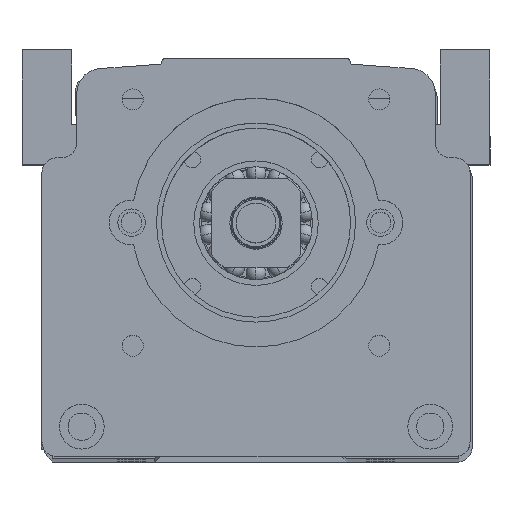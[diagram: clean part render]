
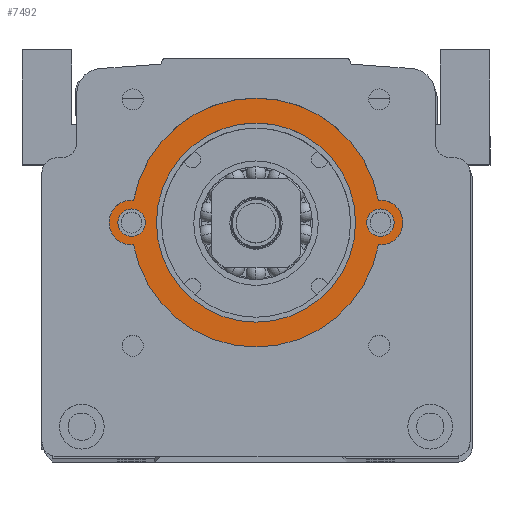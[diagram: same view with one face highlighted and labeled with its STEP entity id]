
A CAD part, top view. The second image highlights one B-rep face of the part: STEP entity #7492.
In plain terms, the highlighted planar face has unit normal (0, 0, 1).
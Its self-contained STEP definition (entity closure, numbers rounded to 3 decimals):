
#3 = DIRECTION ( 'NONE',  ( 0., 0., 1. ) ) ;
#203 = DIRECTION ( 'NONE',  ( 1., 0., 0. ) ) ;
#1160 = DIRECTION ( 'NONE',  ( 0., 0., 1. ) ) ;
#2434 = DIRECTION ( 'NONE',  ( 0., 0., 1. ) ) ;
#2799 = CIRCLE ( 'NONE', #30603, 2.75 ) ;
#3536 = ORIENTED_EDGE ( 'NONE', *, *, #41171, .T. ) ;
#3737 = CIRCLE ( 'NONE', #16670, 4.5 ) ;
#3751 = DIRECTION ( 'NONE',  ( 0., 0., 1. ) ) ;
#4396 = DIRECTION ( 'NONE',  ( 0., 0., 1. ) ) ;
#4462 = CIRCLE ( 'NONE', #30126, 2.75 ) ;
#6324 = EDGE_CURVE ( 'NONE', #62563, #33122, #23065, .T. ) ;
#7492 = ADVANCED_FACE ( 'NONE', ( #66680, #28645, #52928, #39141 ), #55344, .T. ) ;
#7897 = VERTEX_POINT ( 'NONE', #17078 ) ;
#8207 = EDGE_CURVE ( 'NONE', #57708, #53999, #21314, .T. ) ;
#9085 = CARTESIAN_POINT ( 'NONE',  ( 16.857, 5.327, 7. ) ) ;
#9929 = EDGE_CURVE ( 'NONE', #33122, #49575, #12275, .T. ) ;
#10309 = VERTEX_POINT ( 'NONE', #26274 ) ;
#11383 = CARTESIAN_POINT ( 'NONE',  ( -35.893, 5.327, 7. ) ) ;
#11472 = AXIS2_PLACEMENT_3D ( 'NONE', #50849, #19869, #56024 ) ;
#12275 = CIRCLE ( 'NONE', #23229, 4.5 ) ;
#13158 = CARTESIAN_POINT ( 'NONE',  ( -28.143, 5.327, 7. ) ) ;
#13891 = EDGE_CURVE ( 'NONE', #53999, #57708, #39996, .T. ) ;
#14318 = DIRECTION ( 'NONE',  ( 1., 0., 0. ) ) ;
#14582 = CARTESIAN_POINT ( 'NONE',  ( 21.357, 5.327, 7. ) ) ;
#15098 = ORIENTED_EDGE ( 'NONE', *, *, #33477, .F. ) ;
#15932 = CARTESIAN_POINT ( 'NONE',  ( -32.738, 9.808, 7. ) ) ;
#16400 = VERTEX_POINT ( 'NONE', #15932 ) ;
#16670 = AXIS2_PLACEMENT_3D ( 'NONE', #21232, #57382, #26447 ) ;
#17078 = CARTESIAN_POINT ( 'NONE',  ( 16.452, 9.808, 7. ) ) ;
#18217 = AXIS2_PLACEMENT_3D ( 'NONE', #35405, #4396, #40593 ) ;
#18651 = EDGE_CURVE ( 'NONE', #7897, #16400, #47034, .T. ) ;
#19869 = DIRECTION ( 'NONE',  ( 0., 0., 1. ) ) ;
#21232 = CARTESIAN_POINT ( 'NONE',  ( -33.143, 5.327, 7. ) ) ;
#21314 = CIRCLE ( 'NONE', #42236, 20. ) ;
#21501 = DIRECTION ( 'NONE',  ( 0., 0., 1. ) ) ;
#23043 = ORIENTED_EDGE ( 'NONE', *, *, #55933, .F. ) ;
#23065 = CIRCLE ( 'NONE', #33531, 25. ) ;
#23229 = AXIS2_PLACEMENT_3D ( 'NONE', #9085, #45306, #14318 ) ;
#25799 = CARTESIAN_POINT ( 'NONE',  ( -33.143, 5.327, 7. ) ) ;
#26274 = CARTESIAN_POINT ( 'NONE',  ( -30.393, 5.327, 7. ) ) ;
#26447 = DIRECTION ( 'NONE',  ( 1., 0., 0. ) ) ;
#26773 = ORIENTED_EDGE ( 'NONE', *, *, #13891, .F. ) ;
#28024 = CARTESIAN_POINT ( 'NONE',  ( -8.143, 5.327, 7. ) ) ;
#28645 = FACE_OUTER_BOUND ( 'NONE', #46311, .T. ) ;
#29099 = CIRCLE ( 'NONE', #66367, 2.75 ) ;
#29671 = AXIS2_PLACEMENT_3D ( 'NONE', #34765, #3751, #39949 ) ;
#29863 = ORIENTED_EDGE ( 'NONE', *, *, #31997, .T. ) ;
#30126 = AXIS2_PLACEMENT_3D ( 'NONE', #62228, #31249, #203 ) ;
#30297 = CARTESIAN_POINT ( 'NONE',  ( 19.607, 5.327, 7. ) ) ;
#30603 = AXIS2_PLACEMENT_3D ( 'NONE', #52494, #21501, #57625 ) ;
#30858 = CARTESIAN_POINT ( 'NONE',  ( 11.857, 5.327, 7. ) ) ;
#30969 = DIRECTION ( 'NONE',  ( 1., 0., 0. ) ) ;
#31015 = CARTESIAN_POINT ( 'NONE',  ( -8.143, 5.327, 7. ) ) ;
#31249 = DIRECTION ( 'NONE',  ( 0., 0., 1. ) ) ;
#31997 = EDGE_CURVE ( 'NONE', #16400, #62563, #3737, .T. ) ;
#32180 = CARTESIAN_POINT ( 'NONE',  ( 16.857, 5.327, 7. ) ) ;
#33122 = VERTEX_POINT ( 'NONE', #34021 ) ;
#33215 = DIRECTION ( 'NONE',  ( 1., 0., 0. ) ) ;
#33448 = CARTESIAN_POINT ( 'NONE',  ( -8.143, 5.327, 7. ) ) ;
#33477 = EDGE_CURVE ( 'NONE', #51895, #10309, #4462, .T. ) ;
#33531 = AXIS2_PLACEMENT_3D ( 'NONE', #28024, #64206, #33215 ) ;
#33973 = ORIENTED_EDGE ( 'NONE', *, *, #65539, .F. ) ;
#34021 = CARTESIAN_POINT ( 'NONE',  ( 16.452, 0.845, 7. ) ) ;
#34231 = CIRCLE ( 'NONE', #38647, 2.75 ) ;
#34704 = ORIENTED_EDGE ( 'NONE', *, *, #6324, .T. ) ;
#34765 = CARTESIAN_POINT ( 'NONE',  ( -33.143, 5.327, 7. ) ) ;
#35405 = CARTESIAN_POINT ( 'NONE',  ( -8.143, 5.327, 7. ) ) ;
#36218 = DIRECTION ( 'NONE',  ( 1., 0., 0. ) ) ;
#37352 = DIRECTION ( 'NONE',  ( 1., 0., 0. ) ) ;
#37797 = CARTESIAN_POINT ( 'NONE',  ( -32.738, 0.845, 7. ) ) ;
#38619 = DIRECTION ( 'NONE',  ( 1., 0., 0. ) ) ;
#38647 = AXIS2_PLACEMENT_3D ( 'NONE', #32180, #1160, #37352 ) ;
#38707 = EDGE_LOOP ( 'NONE', ( #52836, #26773 ) ) ;
#39141 = FACE_BOUND ( 'NONE', #38707, .T. ) ;
#39949 = DIRECTION ( 'NONE',  ( 1., 0., 0. ) ) ;
#39996 = CIRCLE ( 'NONE', #18217, 20. ) ;
#40593 = DIRECTION ( 'NONE',  ( 1., 0., 0. ) ) ;
#41171 = EDGE_CURVE ( 'NONE', #49575, #7897, #62281, .T. ) ;
#42236 = AXIS2_PLACEMENT_3D ( 'NONE', #33448, #2434, #38619 ) ;
#45306 = DIRECTION ( 'NONE',  ( 0., 0., 1. ) ) ;
#46311 = EDGE_LOOP ( 'NONE', ( #29863, #34704, #46647, #3536, #51938 ) ) ;
#46647 = ORIENTED_EDGE ( 'NONE', *, *, #9929, .T. ) ;
#47034 = CIRCLE ( 'NONE', #53900, 25. ) ;
#47353 = VERTEX_POINT ( 'NONE', #51644 ) ;
#49575 = VERTEX_POINT ( 'NONE', #14582 ) ;
#50577 = EDGE_CURVE ( 'NONE', #10309, #51895, #29099, .T. ) ;
#50849 = CARTESIAN_POINT ( 'NONE',  ( 16.857, 5.327, 7. ) ) ;
#51239 = EDGE_LOOP ( 'NONE', ( #15098, #62940 ) ) ;
#51644 = CARTESIAN_POINT ( 'NONE',  ( 14.107, 5.327, 7. ) ) ;
#51895 = VERTEX_POINT ( 'NONE', #11383 ) ;
#51938 = ORIENTED_EDGE ( 'NONE', *, *, #18651, .T. ) ;
#52494 = CARTESIAN_POINT ( 'NONE',  ( 16.857, 5.327, 7. ) ) ;
#52836 = ORIENTED_EDGE ( 'NONE', *, *, #8207, .F. ) ;
#52928 = FACE_BOUND ( 'NONE', #61312, .T. ) ;
#53900 = AXIS2_PLACEMENT_3D ( 'NONE', #31015, #3, #36218 ) ;
#53999 = VERTEX_POINT ( 'NONE', #30858 ) ;
#55344 = PLANE ( 'NONE',  #29671 ) ;
#55466 = VERTEX_POINT ( 'NONE', #30297 ) ;
#55933 = EDGE_CURVE ( 'NONE', #47353, #55466, #2799, .T. ) ;
#56024 = DIRECTION ( 'NONE',  ( 1., 0., 0. ) ) ;
#57382 = DIRECTION ( 'NONE',  ( 0., 0., 1. ) ) ;
#57625 = DIRECTION ( 'NONE',  ( 1., 0., 0. ) ) ;
#57708 = VERTEX_POINT ( 'NONE', #13158 ) ;
#61312 = EDGE_LOOP ( 'NONE', ( #23043, #33973 ) ) ;
#61953 = DIRECTION ( 'NONE',  ( 0., 0., 1. ) ) ;
#62228 = CARTESIAN_POINT ( 'NONE',  ( -33.143, 5.327, 7. ) ) ;
#62281 = CIRCLE ( 'NONE', #11472, 4.5 ) ;
#62563 = VERTEX_POINT ( 'NONE', #37797 ) ;
#62940 = ORIENTED_EDGE ( 'NONE', *, *, #50577, .F. ) ;
#64206 = DIRECTION ( 'NONE',  ( 0., 0., 1. ) ) ;
#65539 = EDGE_CURVE ( 'NONE', #55466, #47353, #34231, .T. ) ;
#66367 = AXIS2_PLACEMENT_3D ( 'NONE', #25799, #61953, #30969 ) ;
#66680 = FACE_BOUND ( 'NONE', #51239, .T. ) ;
